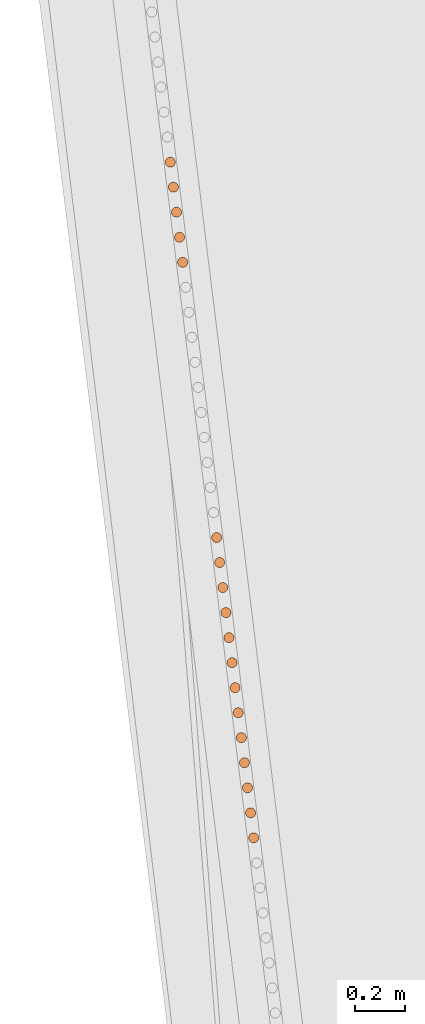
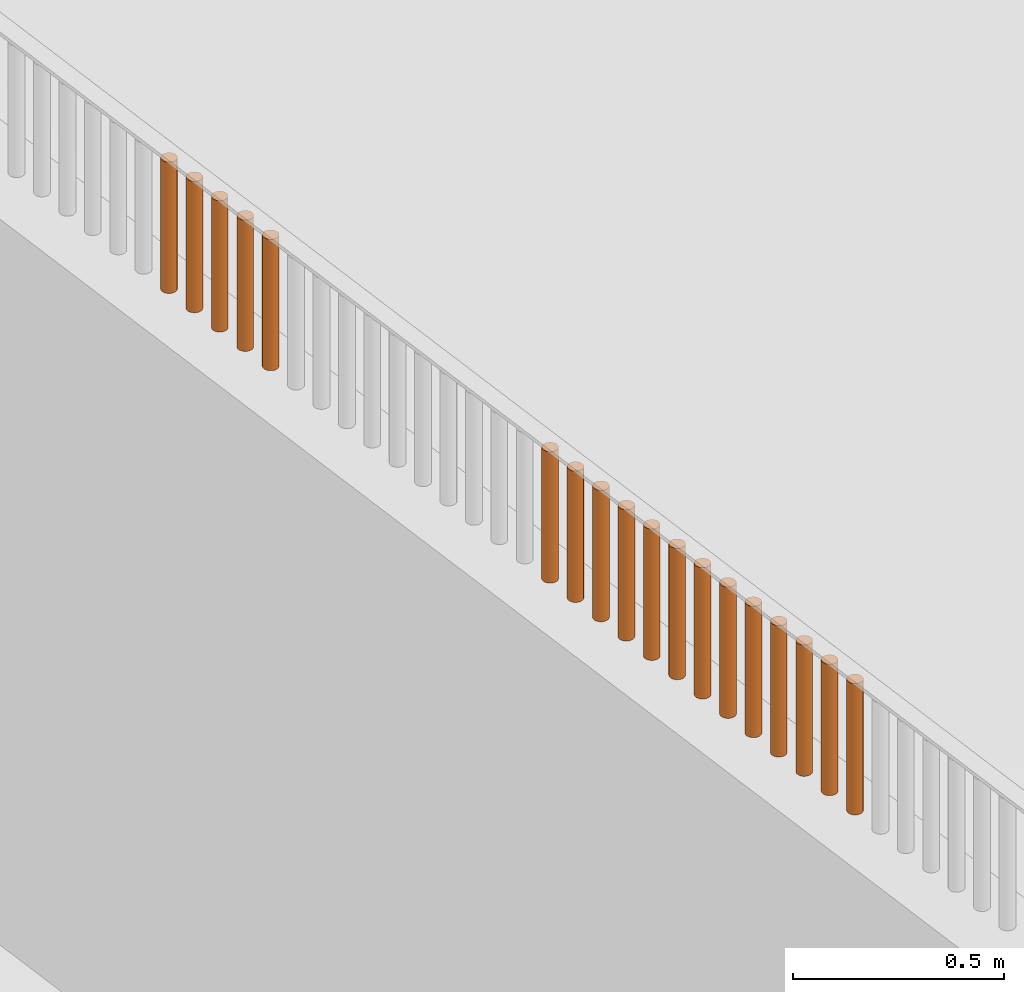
# One storey, part 60 of 1809: 18 proxies, 1 element without a shape of its own.
"""IFC2X3 building model written with IfcOpenShell, lengths in millimetres."""

from ifc_helpers import new_model, entity, si_unit, converted_unit, derived_unit, money_unit, direction, frame, origin_with_axes, place, context, subcontext, project, spatial, faceted_brep, source, transform, mapped, material, type_object, element, aggregate, save


model = new_model("IFC2X3")

# Units and contexts
model_context = context("Model", 3, precision=0.01, world=origin_with_axes(), true_north=direction((0.0, 1.0)))
body_context = subcontext(model_context, "Body", "Model", "MODEL_VIEW")
ifc_project = project(units=[si_unit("LENGTHUNIT", "METRE", prefix="MILLI"), si_unit("AREAUNIT", "SQUARE_METRE"), si_unit("VOLUMEUNIT", "CUBIC_METRE"), converted_unit("PLANEANGLEUNIT", "DEGREE", entity("IfcPlaneAngleMeasure", 0.0174532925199), si_unit("PLANEANGLEUNIT", "RADIAN"), dimensions=[0, 0, 0, 0, 0, 0, 0]), si_unit("SOLIDANGLEUNIT", "STERADIAN"), money_unit("EUR"), converted_unit("TIMEUNIT", "Year", entity("IfcTimeMeasure", 31556926.0), si_unit("TIMEUNIT", "SECOND"), dimensions=[0, 0, 1, 0, 0, 0, 0]), si_unit("MASSUNIT", "GRAM", prefix="KILO"), si_unit("THERMODYNAMICTEMPERATUREUNIT", "DEGREE_CELSIUS"), si_unit("LUMINOUSINTENSITYUNIT", "LUMEN"), si_unit("ENERGYUNIT", "JOULE", prefix="MEGA"), derived_unit("THERMALCONDUCTANCEUNIT", [(si_unit("POWERUNIT", "WATT"), 1), (si_unit("LENGTHUNIT", "METRE"), -1), (si_unit("THERMODYNAMICTEMPERATUREUNIT", "KELVIN"), -1)]), derived_unit("SPECIFICHEATCAPACITYUNIT", [(si_unit("ENERGYUNIT", "JOULE"), 1), (si_unit("MASSUNIT", "GRAM", prefix="KILO"), -1), (si_unit("THERMODYNAMICTEMPERATUREUNIT", "KELVIN"), -1)]), derived_unit("MASSDENSITYUNIT", [(si_unit("MASSUNIT", "GRAM", prefix="KILO"), 1), (si_unit("VOLUMEUNIT", "CUBIC_METRE"), -1)])], contexts=[model_context])

# Site, building, storey
site_placement = place(None, origin_with_axes())
site = spatial("IfcSite", under=ifc_project, at=site_placement, Name="Politse- ja Piirivalveameti ning Päästeameti ühishoone", CompositionType="ELEMENT")
building_placement = place(site_placement, origin_with_axes())
building = spatial("IfcBuilding", under=site, at=building_placement, Name="Politse- ja Piirivalveameti ning Päästeameti ühishoone", CompositionType="ELEMENT")
storey_placement = place(building_placement, origin_with_axes())
storey = spatial("IfcBuildingStorey", under=building, at=storey_placement, Name="Esimene korrus", CompositionType="ELEMENT", Elevation=0.0)

# Proxies
building_element_proxy_type_1 = type_object("IfcBuildingElementProxyType", Name="Railing Type", PredefinedType="NOTDEFINED")
proxy_1_placement = place(storey_placement, frame((-18956.5522504, -53688.4757966, 2100.0), z_axis=(0.0, 0.0, 1.0), x_axis=(1.0, 0.0, 0.0)))
proxy_1 = element("IfcBuildingElementProxy", 1, at=proxy_1_placement, inside=storey, type_object=building_element_proxy_type_1, Name="PIIRDEAED")
ifc_material = material(Name="ET-06_Teras - Konstruktsioon")
building_element_proxy_type_2 = type_object("IfcBuildingElementProxyType", Name="IfcBuildingElementProxy", PredefinedType="NOTDEFINED")
shared_shape_1 = source(origin_with_axes(), body_context, "Body", "Brep", [
    faceted_brep([(0.0, -20.0, 0.0), (3.47296355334, -19.6961550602, 0.0), (3.47296355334, -19.6961550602, 380.000012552), (0.0, -20.0, 380.000012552), (-3.47296355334, -19.6961550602, 0.0), (-6.84040286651, -18.7938524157, 0.0), (-10.0, -17.3205080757, 0.0), (-12.8557521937, -15.3208888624, 0.0), (-15.3208888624, -12.8557521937, 0.0), (-17.3205080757, -10.0, 0.0), (-18.7938524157, -6.84040286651, 0.0), (-19.6961550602, -3.47296355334, 0.0), (-20.0, 0.0, 0.0), (-19.6961550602, 3.47296355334, 0.0), (-18.7938524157, 6.84040286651, 0.0), (-17.3205080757, 10.0, 0.0), (-15.3208888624, 12.8557521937, 0.0), (-12.8557521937, 15.3208888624, 0.0), (-10.0, 17.3205080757, 0.0), (-6.84040286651, 18.7938524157, 0.0), (-3.47296355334, 19.6961550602, 0.0), (0.0, 20.0, 0.0), (3.47296355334, 19.6961550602, 0.0), (6.84040286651, 18.7938524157, 0.0), (10.0, 17.3205080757, 0.0), (12.8557521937, 15.3208888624, 0.0), (15.3208888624, 12.8557521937, 0.0), (17.3205080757, 10.0, 0.0), (18.7938524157, 6.84040286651, 0.0), (19.6961550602, 3.47296355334, 0.0), (20.0, 0.0, 0.0), (19.6961550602, -3.47296355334, 0.0), (18.7938524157, -6.84040286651, 0.0), (17.3205080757, -10.0, 0.0), (15.3208888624, -12.8557521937, 0.0), (12.8557521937, -15.3208888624, 0.0), (10.0, -17.3205080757, 0.0), (6.84040286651, -18.7938524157, 0.0), (6.84040286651, -18.7938524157, 380.000012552), (10.0, -17.3205080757, 380.000012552), (12.8557521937, -15.3208888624, 380.000012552), (15.3208888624, -12.8557521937, 380.000012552), (17.3205080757, -10.0, 380.000012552), (18.7938524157, -6.84040286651, 380.000012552), (19.6961550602, -3.47296355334, 380.000012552), (20.0, 0.0, 380.000012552), (19.6961550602, 3.47296355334, 380.000012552), (18.7938524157, 6.84040286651, 380.000012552), (17.3205080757, 10.0, 380.000012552), (15.3208888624, 12.8557521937, 380.000012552), (12.8557521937, 15.3208888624, 380.000012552), (10.0, 17.3205080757, 380.000012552), (6.84040286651, 18.7938524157, 380.000012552), (3.47296355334, 19.6961550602, 380.000012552), (0.0, 20.0, 380.000012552), (-3.47296355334, 19.6961550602, 380.000012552), (-6.84040286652, 18.7938524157, 380.000012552), (-10.0, 17.3205080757, 380.000012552), (-12.8557521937, 15.3208888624, 380.000012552), (-15.3208888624, 12.8557521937, 380.000012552), (-17.3205080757, 10.0, 380.000012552), (-18.7938524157, 6.84040286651, 380.000012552), (-19.6961550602, 3.47296355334, 380.000012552), (-20.0, 0.0, 380.000012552), (-19.6961550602, -3.47296355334, 380.000012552), (-18.7938524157, -6.84040286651, 380.000012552), (-17.3205080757, -10.0, 380.000012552), (-15.3208888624, -12.8557521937, 380.000012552), (-12.8557521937, -15.3208888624, 380.000012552), (-10.0, -17.3205080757, 380.000012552), (-6.84040286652, -18.7938524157, 380.000012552), (-3.47296355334, -19.6961550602, 380.000012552)], [[[0, 1, 2, 3]], [[0, 4, 5, 6, 7, 8, 9, 10, 11, 12, 13, 14, 15, 16, 17, 18, 19, 20, 21, 22, 23, 24, 25, 26, 27, 28, 29, 30, 31, 32, 33, 34, 35, 36, 37, 1]], [[1, 37, 38, 2]], [[3, 2, 38, 39, 40, 41, 42, 43, 44, 45, 46, 47, 48, 49, 50, 51, 52, 53, 54, 55, 56, 57, 58, 59, 60, 61, 62, 63, 64, 65, 66, 67, 68, 69, 70, 71]], [[4, 0, 3, 71]], [[5, 4, 71, 70]], [[6, 5, 70, 69]], [[7, 6, 69, 68]], [[8, 7, 68, 67]], [[9, 8, 67, 66]], [[10, 9, 66, 65]], [[11, 10, 65, 64]], [[12, 11, 64, 63]], [[13, 12, 63, 62]], [[14, 13, 62, 61]], [[15, 14, 61, 60]], [[16, 15, 60, 59]], [[17, 16, 59, 58]], [[18, 17, 58, 57]], [[19, 18, 57, 56]], [[20, 19, 56, 55]], [[21, 20, 55, 54]], [[22, 21, 54, 53]], [[23, 22, 53, 52]], [[24, 23, 52, 51]], [[25, 24, 51, 50]], [[26, 25, 50, 49]], [[27, 26, 49, 48]], [[28, 27, 48, 47]], [[29, 28, 47, 46]], [[30, 29, 46, 45]], [[31, 30, 45, 44]], [[32, 31, 44, 43]], [[33, 32, 43, 42]], [[34, 33, 42, 41]], [[35, 34, 41, 40]], [[36, 35, 40, 39]], [[37, 36, 39, 38]]]),
])
proxy_2_placement = place(proxy_1_placement, frame((-693.160383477, 4781.62208498, -1.25517001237e-05), z_axis=(0.0, 0.0, 1.0), x_axis=(1.0, 0.0, 0.0)))
proxy_2 = element("IfcBuildingElementProxy", 2, at=proxy_2_placement, type_object=building_element_proxy_type_2, material=ifc_material, Name="BALUSTER - 001", context=body_context, shape_type="MappedRepresentation", body=[
    mapped(shared_shape_1, transform((0.0, 0.0, 0.0), x_axis=(0.992468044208, 0.122503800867, 0.0), y_axis=(-0.122503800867, 0.992468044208, 0.0), z_axis=(0.0, 0.0, 1.0))),
])
proxy_3_placement = place(proxy_1_placement, frame((-754.398908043, 5277.74774211, -1.25517001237e-05), z_axis=(0.0, 0.0, 1.0), x_axis=(1.0, 0.0, 0.0)))
proxy_3 = element("IfcBuildingElementProxy", 3, at=proxy_3_placement, type_object=building_element_proxy_type_2, material=ifc_material, Name="BALUSTER - 001", context=body_context, shape_type="MappedRepresentation", body=[
    mapped(shared_shape_1, transform((0.0, 0.0, 0.0), x_axis=(0.992468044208, 0.122503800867, 0.0), y_axis=(-0.122503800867, 0.992468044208, 0.0), z_axis=(0.0, 0.0, 1.0))),
])
proxy_4_placement = place(proxy_1_placement, frame((-815.637432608, 5773.87339923, -1.25517001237e-05), z_axis=(0.0, 0.0, 1.0), x_axis=(1.0, 0.0, 0.0)))
proxy_4 = element("IfcBuildingElementProxy", 4, at=proxy_4_placement, type_object=building_element_proxy_type_2, material=ifc_material, Name="BALUSTER - 001", context=body_context, shape_type="MappedRepresentation", body=[
    mapped(shared_shape_1, transform((0.0, 0.0, 0.0), x_axis=(0.992468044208, 0.122503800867, 0.0), y_axis=(-0.122503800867, 0.992468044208, 0.0), z_axis=(0.0, 0.0, 1.0))),
])
shared_shape_2 = source(origin_with_axes(), body_context, "Body", "Brep", [
    faceted_brep([(0.0, -20.0, 0.0), (3.47296355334, -19.6961550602, 0.0), (3.47296355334, -19.6961550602, 380.000012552), (0.0, -20.0, 380.000012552), (-3.47296355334, -19.6961550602, 0.0), (-6.84040286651, -18.7938524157, 0.0), (-10.0, -17.3205080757, 0.0), (-12.8557521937, -15.3208888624, 0.0), (-15.3208888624, -12.8557521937, 0.0), (-17.3205080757, -10.0, 0.0), (-18.7938524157, -6.84040286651, 0.0), (-19.6961550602, -3.47296355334, 0.0), (-20.0, 0.0, 0.0), (-19.6961550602, 3.47296355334, 0.0), (-18.7938524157, 6.84040286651, 0.0), (-17.3205080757, 10.0, 0.0), (-15.3208888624, 12.8557521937, 0.0), (-12.8557521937, 15.3208888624, 0.0), (-10.0, 17.3205080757, 0.0), (-6.84040286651, 18.7938524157, 0.0), (-3.47296355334, 19.6961550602, 0.0), (0.0, 20.0, 0.0), (3.47296355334, 19.6961550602, 0.0), (6.84040286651, 18.7938524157, 0.0), (10.0, 17.3205080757, 0.0), (12.8557521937, 15.3208888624, 0.0), (15.3208888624, 12.8557521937, 0.0), (17.3205080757, 10.0, 0.0), (18.7938524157, 6.84040286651, 0.0), (19.6961550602, 3.47296355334, 0.0), (20.0, 0.0, 0.0), (19.6961550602, -3.47296355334, 0.0), (18.7938524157, -6.84040286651, 0.0), (17.3205080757, -10.0, 0.0), (15.3208888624, -12.8557521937, 0.0), (12.8557521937, -15.3208888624, 0.0), (10.0, -17.3205080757, 0.0), (6.84040286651, -18.7938524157, 0.0), (6.84040286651, -18.7938524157, 380.000012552), (10.0, -17.3205080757, 380.000012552), (12.8557521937, -15.3208888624, 380.000012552), (15.3208888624, -12.8557521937, 380.000012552), (17.3205080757, -10.0, 380.000012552), (18.7938524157, -6.84040286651, 380.000012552), (19.6961550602, -3.47296355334, 380.000012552), (20.0, 0.0, 380.000012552), (19.6961550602, 3.47296355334, 380.000012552), (18.7938524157, 6.84040286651, 380.000012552), (17.3205080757, 10.0, 380.000012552), (15.3208888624, 12.8557521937, 380.000012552), (12.8557521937, 15.3208888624, 380.000012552), (10.0, 17.3205080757, 380.000012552), (6.84040286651, 18.7938524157, 380.000012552), (3.47296355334, 19.6961550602, 380.000012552), (0.0, 20.0, 380.000012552), (-3.47296355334, 19.6961550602, 380.000012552), (-6.84040286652, 18.7938524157, 380.000012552), (-10.0, 17.3205080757, 380.000012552), (-12.8557521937, 15.3208888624, 380.000012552), (-15.3208888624, 12.8557521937, 380.000012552), (-17.3205080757, 10.0, 380.000012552), (-18.7938524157, 6.84040286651, 380.000012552), (-19.6961550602, 3.47296355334, 380.000012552), (-20.0, 0.0, 380.000012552), (-19.6961550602, -3.47296355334, 380.000012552), (-18.7938524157, -6.84040286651, 380.000012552), (-17.3205080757, -10.0, 380.000012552), (-15.3208888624, -12.8557521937, 380.000012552), (-12.8557521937, -15.3208888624, 380.000012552), (-10.0, -17.3205080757, 380.000012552), (-6.84040286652, -18.7938524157, 380.000012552), (-3.47296355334, -19.6961550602, 380.000012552)], [[[0, 1, 2, 3]], [[0, 4, 5, 6, 7, 8, 9, 10, 11, 12, 13, 14, 15, 16, 17, 18, 19, 20, 21, 22, 23, 24, 25, 26, 27, 28, 29, 30, 31, 32, 33, 34, 35, 36, 37, 1]], [[1, 37, 38, 2]], [[3, 2, 38, 39, 40, 41, 42, 43, 44, 45, 46, 47, 48, 49, 50, 51, 52, 53, 54, 55, 56, 57, 58, 59, 60, 61, 62, 63, 64, 65, 66, 67, 68, 69, 70, 71]], [[4, 0, 3, 71]], [[5, 4, 71, 70]], [[6, 5, 70, 69]], [[7, 6, 69, 68]], [[8, 7, 68, 67]], [[9, 8, 67, 66]], [[10, 9, 66, 65]], [[11, 10, 65, 64]], [[12, 11, 64, 63]], [[13, 12, 63, 62]], [[14, 13, 62, 61]], [[15, 14, 61, 60]], [[16, 15, 60, 59]], [[17, 16, 59, 58]], [[18, 17, 58, 57]], [[19, 18, 57, 56]], [[20, 19, 56, 55]], [[21, 20, 55, 54]], [[22, 21, 54, 53]], [[23, 22, 53, 52]], [[24, 23, 52, 51]], [[25, 24, 51, 50]], [[26, 25, 50, 49]], [[27, 26, 49, 48]], [[28, 27, 48, 47]], [[29, 28, 47, 46]], [[30, 29, 46, 45]], [[31, 30, 45, 44]], [[32, 31, 44, 43]], [[33, 32, 43, 42]], [[34, 33, 42, 41]], [[35, 34, 41, 40]], [[36, 35, 40, 39]], [[37, 36, 39, 38]]]),
])
proxy_5_placement = place(proxy_1_placement, frame((-680.912678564, 4682.39695356, -1.25517001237e-05), z_axis=(0.0, 0.0, 1.0), x_axis=(1.0, 0.0, 0.0)))
proxy_5 = element("IfcBuildingElementProxy", 5, at=proxy_5_placement, type_object=building_element_proxy_type_2, material=ifc_material, Name="BALUSTER - 001", context=body_context, shape_type="MappedRepresentation", body=[
    mapped(shared_shape_2, transform((0.0, 0.0, 0.0), x_axis=(0.992468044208, 0.122503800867, 0.0), y_axis=(-0.122503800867, 0.992468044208, 0.0), z_axis=(0.0, 0.0, 1.0))),
])
proxy_6_placement = place(proxy_1_placement, frame((-729.903498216, 5079.29747926, -1.25517001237e-05), z_axis=(0.0, 0.0, 1.0), x_axis=(1.0, 0.0, 0.0)))
proxy_6 = element("IfcBuildingElementProxy", 6, at=proxy_6_placement, type_object=building_element_proxy_type_2, material=ifc_material, Name="BALUSTER - 001", context=body_context, shape_type="MappedRepresentation", body=[
    mapped(shared_shape_2, transform((0.0, 0.0, 0.0), x_axis=(0.992468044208, 0.122503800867, 0.0), y_axis=(-0.122503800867, 0.992468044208, 0.0), z_axis=(0.0, 0.0, 1.0))),
])
proxy_7_placement = place(proxy_1_placement, frame((-742.151203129, 5178.52261068, -1.25517001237e-05), z_axis=(0.0, 0.0, 1.0), x_axis=(1.0, 0.0, 0.0)))
proxy_7 = element("IfcBuildingElementProxy", 7, at=proxy_7_placement, type_object=building_element_proxy_type_2, material=ifc_material, Name="BALUSTER - 001", context=body_context, shape_type="MappedRepresentation", body=[
    mapped(shared_shape_2, transform((0.0, 0.0, 0.0), x_axis=(0.992468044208, 0.122503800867, 0.0), y_axis=(-0.122503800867, 0.992468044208, 0.0), z_axis=(0.0, 0.0, 1.0))),
])
proxy_8_placement = place(proxy_1_placement, frame((-766.646612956, 5376.97287353, -1.25517001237e-05), z_axis=(0.0, 0.0, 1.0), x_axis=(1.0, 0.0, 0.0)))
proxy_8 = element("IfcBuildingElementProxy", 8, at=proxy_8_placement, type_object=building_element_proxy_type_2, material=ifc_material, Name="BALUSTER - 001", context=body_context, shape_type="MappedRepresentation", body=[
    mapped(shared_shape_2, transform((0.0, 0.0, 0.0), x_axis=(0.992468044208, 0.122503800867, 0.0), y_axis=(-0.122503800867, 0.992468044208, 0.0), z_axis=(0.0, 0.0, 1.0))),
])
proxy_9_placement = place(proxy_1_placement, frame((-791.142022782, 5575.42313638, -1.25517001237e-05), z_axis=(0.0, 0.0, 1.0), x_axis=(1.0, 0.0, 0.0)))
proxy_9 = element("IfcBuildingElementProxy", 9, at=proxy_9_placement, type_object=building_element_proxy_type_2, material=ifc_material, Name="BALUSTER - 001", context=body_context, shape_type="MappedRepresentation", body=[
    mapped(shared_shape_2, transform((0.0, 0.0, 0.0), x_axis=(0.992468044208, 0.122503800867, 0.0), y_axis=(-0.122503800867, 0.992468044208, 0.0), z_axis=(0.0, 0.0, 1.0))),
])
proxy_10_placement = place(proxy_1_placement, frame((-827.885137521, 5873.09853066, -1.25517001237e-05), z_axis=(0.0, 0.0, 1.0), x_axis=(1.0, 0.0, 0.0)))
proxy_10 = element("IfcBuildingElementProxy", 10, at=proxy_10_placement, type_object=building_element_proxy_type_2, material=ifc_material, Name="BALUSTER - 001", context=body_context, shape_type="MappedRepresentation", body=[
    mapped(shared_shape_2, transform((0.0, 0.0, 0.0), x_axis=(0.992468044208, 0.122503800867, 0.0), y_axis=(-0.122503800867, 0.992468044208, 0.0), z_axis=(0.0, 0.0, 1.0))),
])
proxy_11_placement = place(proxy_1_placement, frame((-962.609891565, 6964.57497634, -1.25517001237e-05), z_axis=(0.0, 0.0, 1.0), x_axis=(1.0, 0.0, 0.0)))
proxy_11 = element("IfcBuildingElementProxy", 11, at=proxy_11_placement, type_object=building_element_proxy_type_2, material=ifc_material, Name="BALUSTER - 001", context=body_context, shape_type="MappedRepresentation", body=[
    mapped(shared_shape_2, transform((0.0, 0.0, 0.0), x_axis=(0.992468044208, 0.122503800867, 0.0), y_axis=(-0.122503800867, 0.992468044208, 0.0), z_axis=(0.0, 0.0, 1.0))),
])
proxy_12_placement = place(proxy_1_placement, frame((-999.353006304, 7262.25037061, -1.25517001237e-05), z_axis=(0.0, 0.0, 1.0), x_axis=(1.0, 0.0, 0.0)))
proxy_12 = element("IfcBuildingElementProxy", 12, at=proxy_12_placement, type_object=building_element_proxy_type_2, material=ifc_material, Name="BALUSTER - 001", context=body_context, shape_type="MappedRepresentation", body=[
    mapped(shared_shape_2, transform((0.0, 0.0, 0.0), x_axis=(0.992468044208, 0.122503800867, 0.0), y_axis=(-0.122503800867, 0.992468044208, 0.0), z_axis=(0.0, 0.0, 1.0))),
])
proxy_13_placement = place(proxy_1_placement, frame((-1011.60071122, 7361.47550204, -1.25517001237e-05), z_axis=(0.0, 0.0, 1.0), x_axis=(1.0, 0.0, 0.0)))
proxy_13 = element("IfcBuildingElementProxy", 13, at=proxy_13_placement, type_object=building_element_proxy_type_2, material=ifc_material, Name="BALUSTER - 001", context=body_context, shape_type="MappedRepresentation", body=[
    mapped(shared_shape_2, transform((0.0, 0.0, 0.0), x_axis=(0.992468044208, 0.122503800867, 0.0), y_axis=(-0.122503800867, 0.992468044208, 0.0), z_axis=(0.0, 0.0, 1.0))),
])
shared_shape_3 = source(origin_with_axes(), body_context, "Body", "Brep", [
    faceted_brep([(0.0, -20.0, 0.0), (3.47296355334, -19.6961550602, 0.0), (3.47296355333, -19.6961550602, 380.000012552), (0.0, -20.0, 380.000012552), (-3.47296355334, -19.6961550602, 0.0), (-6.84040286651, -18.7938524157, 0.0), (-10.0, -17.3205080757, 0.0), (-12.8557521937, -15.3208888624, 0.0), (-15.3208888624, -12.8557521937, 0.0), (-17.3205080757, -10.0, 0.0), (-18.7938524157, -6.84040286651, 0.0), (-19.6961550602, -3.47296355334, 0.0), (-20.0, 0.0, 0.0), (-19.6961550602, 3.47296355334, 0.0), (-18.7938524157, 6.84040286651, 0.0), (-17.3205080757, 10.0, 0.0), (-15.3208888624, 12.8557521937, 0.0), (-12.8557521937, 15.3208888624, 0.0), (-10.0, 17.3205080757, 0.0), (-6.84040286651, 18.7938524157, 0.0), (-3.47296355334, 19.6961550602, 0.0), (0.0, 20.0, 0.0), (3.47296355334, 19.6961550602, 0.0), (6.84040286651, 18.7938524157, 0.0), (10.0, 17.3205080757, 0.0), (12.8557521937, 15.3208888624, 0.0), (15.3208888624, 12.8557521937, 0.0), (17.3205080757, 10.0, 0.0), (18.7938524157, 6.84040286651, 0.0), (19.6961550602, 3.47296355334, 0.0), (20.0, 0.0, 0.0), (19.6961550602, -3.47296355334, 0.0), (18.7938524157, -6.84040286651, 0.0), (17.3205080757, -10.0, 0.0), (15.3208888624, -12.8557521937, 0.0), (12.8557521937, -15.3208888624, 0.0), (10.0, -17.3205080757, 0.0), (6.84040286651, -18.7938524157, 0.0), (6.84040286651, -18.7938524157, 380.000012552), (9.99999999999, -17.3205080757, 380.000012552), (12.8557521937, -15.3208888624, 380.000012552), (15.3208888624, -12.8557521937, 380.000012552), (17.3205080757, -10.0, 380.000012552), (18.7938524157, -6.84040286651, 380.000012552), (19.6961550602, -3.47296355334, 380.000012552), (20.0, 0.0, 380.000012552), (19.6961550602, 3.47296355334, 380.000012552), (18.7938524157, 6.84040286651, 380.000012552), (17.3205080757, 10.0, 380.000012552), (15.3208888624, 12.8557521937, 380.000012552), (12.8557521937, 15.3208888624, 380.000012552), (9.99999999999, 17.3205080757, 380.000012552), (6.84040286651, 18.7938524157, 380.000012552), (3.47296355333, 19.6961550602, 380.000012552), (0.0, 20.0, 380.000012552), (-3.47296355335, 19.6961550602, 380.000012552), (-6.84040286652, 18.7938524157, 380.000012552), (-10.0, 17.3205080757, 380.000012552), (-12.8557521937, 15.3208888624, 380.000012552), (-15.3208888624, 12.8557521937, 380.000012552), (-17.3205080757, 10.0, 380.000012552), (-18.7938524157, 6.84040286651, 380.000012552), (-19.6961550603, 3.47296355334, 380.000012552), (-20.0, 0.0, 380.000012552), (-19.6961550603, -3.47296355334, 380.000012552), (-18.7938524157, -6.84040286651, 380.000012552), (-17.3205080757, -10.0, 380.000012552), (-15.3208888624, -12.8557521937, 380.000012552), (-12.8557521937, -15.3208888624, 380.000012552), (-10.0, -17.3205080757, 380.000012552), (-6.84040286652, -18.7938524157, 380.000012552), (-3.47296355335, -19.6961550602, 380.000012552)], [[[0, 1, 2, 3]], [[0, 4, 5, 6, 7, 8, 9, 10, 11, 12, 13, 14, 15, 16, 17, 18, 19, 20, 21, 22, 23, 24, 25, 26, 27, 28, 29, 30, 31, 32, 33, 34, 35, 36, 37, 1]], [[1, 37, 38, 2]], [[3, 2, 38, 39, 40, 41, 42, 43, 44, 45, 46, 47, 48, 49, 50, 51, 52, 53, 54, 55, 56, 57, 58, 59, 60, 61, 62, 63, 64, 65, 66, 67, 68, 69, 70, 71]], [[4, 0, 3, 71]], [[5, 4, 71, 70]], [[6, 5, 70, 69]], [[7, 6, 69, 68]], [[8, 7, 68, 67]], [[9, 8, 67, 66]], [[10, 9, 66, 65]], [[11, 10, 65, 64]], [[12, 11, 64, 63]], [[13, 12, 63, 62]], [[14, 13, 62, 61]], [[15, 14, 61, 60]], [[16, 15, 60, 59]], [[17, 16, 59, 58]], [[18, 17, 58, 57]], [[19, 18, 57, 56]], [[20, 19, 56, 55]], [[21, 20, 55, 54]], [[22, 21, 54, 53]], [[23, 22, 53, 52]], [[24, 23, 52, 51]], [[25, 24, 51, 50]], [[26, 25, 50, 49]], [[27, 26, 49, 48]], [[28, 27, 48, 47]], [[29, 28, 47, 46]], [[30, 29, 46, 45]], [[31, 30, 45, 44]], [[32, 31, 44, 43]], [[33, 32, 43, 42]], [[34, 33, 42, 41]], [[35, 34, 41, 40]], [[36, 35, 40, 39]], [[37, 36, 39, 38]]]),
])
proxy_14_placement = place(proxy_1_placement, frame((-705.40808839, 4880.84721641, -1.25517001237e-05), z_axis=(0.0, 0.0, 1.0), x_axis=(1.0, 0.0, 0.0)))
proxy_14 = element("IfcBuildingElementProxy", 14, at=proxy_14_placement, type_object=building_element_proxy_type_2, material=ifc_material, Name="BALUSTER - 001", context=body_context, shape_type="MappedRepresentation", body=[
    mapped(shared_shape_3, transform((0.0, 0.0, 0.0), x_axis=(0.992468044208, 0.122503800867, 0.0), y_axis=(-0.122503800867, 0.992468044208, 0.0), z_axis=(0.0, 0.0, 1.0))),
])
proxy_15_placement = place(proxy_1_placement, frame((-717.655793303, 4980.07234783, -1.25517001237e-05), z_axis=(0.0, 0.0, 1.0), x_axis=(1.0, 0.0, 0.0)))
proxy_15 = element("IfcBuildingElementProxy", 15, at=proxy_15_placement, type_object=building_element_proxy_type_2, material=ifc_material, Name="BALUSTER - 001", context=body_context, shape_type="MappedRepresentation", body=[
    mapped(shared_shape_3, transform((0.0, 0.0, 0.0), x_axis=(0.992468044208, 0.122503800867, 0.0), y_axis=(-0.122503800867, 0.992468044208, 0.0), z_axis=(0.0, 0.0, 1.0))),
])
proxy_16_placement = place(proxy_1_placement, frame((-974.857596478, 7063.80010776, -1.25517001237e-05), z_axis=(0.0, 0.0, 1.0), x_axis=(1.0, 0.0, 0.0)))
proxy_16 = element("IfcBuildingElementProxy", 16, at=proxy_16_placement, type_object=building_element_proxy_type_2, material=ifc_material, Name="BALUSTER - 001", context=body_context, shape_type="MappedRepresentation", body=[
    mapped(shared_shape_3, transform((0.0, 0.0, 0.0), x_axis=(0.992468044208, 0.122503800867, 0.0), y_axis=(-0.122503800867, 0.992468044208, 0.0), z_axis=(0.0, 0.0, 1.0))),
])
proxy_17_placement = place(proxy_1_placement, frame((-987.105301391, 7163.02523919, -1.25517001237e-05), z_axis=(0.0, 0.0, 1.0), x_axis=(1.0, 0.0, 0.0)))
proxy_17 = element("IfcBuildingElementProxy", 17, at=proxy_17_placement, type_object=building_element_proxy_type_2, material=ifc_material, Name="BALUSTER - 001", context=body_context, shape_type="MappedRepresentation", body=[
    mapped(shared_shape_3, transform((0.0, 0.0, 0.0), x_axis=(0.992468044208, 0.122503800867, 0.0), y_axis=(-0.122503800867, 0.992468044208, 0.0), z_axis=(0.0, 0.0, 1.0))),
])
shared_shape_4 = source(origin_with_axes(), body_context, "Body", "Brep", [
    faceted_brep([(0.0, -20.0, 0.0), (3.47296355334, -19.6961550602, 0.0), (3.47296355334, -19.6961550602, 380.000012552), (0.0, -20.0, 380.000012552), (-3.47296355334, -19.6961550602, 0.0), (-6.84040286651, -18.7938524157, 0.0), (-10.0, -17.3205080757, 0.0), (-12.8557521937, -15.3208888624, 0.0), (-15.3208888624, -12.8557521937, 0.0), (-17.3205080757, -10.0, 0.0), (-18.7938524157, -6.84040286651, 0.0), (-19.6961550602, -3.47296355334, 0.0), (-20.0, 0.0, 0.0), (-19.6961550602, 3.47296355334, 0.0), (-18.7938524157, 6.84040286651, 0.0), (-17.3205080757, 10.0, 0.0), (-15.3208888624, 12.8557521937, 0.0), (-12.8557521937, 15.3208888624, 0.0), (-10.0, 17.3205080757, 0.0), (-6.84040286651, 18.7938524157, 0.0), (-3.47296355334, 19.6961550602, 0.0), (0.0, 20.0, 0.0), (3.47296355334, 19.6961550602, 0.0), (6.84040286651, 18.7938524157, 0.0), (10.0, 17.3205080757, 0.0), (12.8557521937, 15.3208888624, 0.0), (15.3208888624, 12.8557521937, 0.0), (17.3205080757, 10.0, 0.0), (18.7938524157, 6.84040286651, 0.0), (19.6961550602, 3.47296355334, 0.0), (20.0, 0.0, 0.0), (19.6961550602, -3.47296355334, 0.0), (18.7938524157, -6.84040286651, 0.0), (17.3205080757, -10.0, 0.0), (15.3208888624, -12.8557521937, 0.0), (12.8557521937, -15.3208888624, 0.0), (10.0, -17.3205080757, 0.0), (6.84040286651, -18.7938524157, 0.0), (6.84040286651, -18.7938524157, 380.000012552), (10.0, -17.3205080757, 380.000012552), (12.8557521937, -15.3208888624, 380.000012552), (15.3208888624, -12.8557521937, 380.000012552), (17.3205080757, -10.0, 380.000012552), (18.7938524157, -6.84040286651, 380.000012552), (19.6961550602, -3.47296355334, 380.000012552), (20.0, 0.0, 380.000012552), (19.6961550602, 3.47296355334, 380.000012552), (18.7938524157, 6.84040286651, 380.000012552), (17.3205080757, 10.0, 380.000012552), (15.3208888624, 12.8557521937, 380.000012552), (12.8557521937, 15.3208888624, 380.000012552), (10.0, 17.3205080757, 380.000012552), (6.84040286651, 18.7938524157, 380.000012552), (3.47296355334, 19.6961550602, 380.000012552), (0.0, 20.0, 380.000012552), (-3.47296355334, 19.6961550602, 380.000012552), (-6.84040286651, 18.7938524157, 380.000012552), (-10.0, 17.3205080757, 380.000012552), (-12.8557521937, 15.3208888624, 380.000012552), (-15.3208888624, 12.8557521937, 380.000012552), (-17.3205080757, 10.0, 380.000012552), (-18.7938524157, 6.84040286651, 380.000012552), (-19.6961550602, 3.47296355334, 380.000012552), (-20.0, 0.0, 380.000012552), (-19.6961550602, -3.47296355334, 380.000012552), (-18.7938524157, -6.84040286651, 380.000012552), (-17.3205080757, -10.0, 380.000012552), (-15.3208888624, -12.8557521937, 380.000012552), (-12.8557521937, -15.3208888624, 380.000012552), (-10.0, -17.3205080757, 380.000012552), (-6.84040286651, -18.7938524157, 380.000012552), (-3.47296355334, -19.6961550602, 380.000012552)], [[[0, 1, 2, 3]], [[0, 4, 5, 6, 7, 8, 9, 10, 11, 12, 13, 14, 15, 16, 17, 18, 19, 20, 21, 22, 23, 24, 25, 26, 27, 28, 29, 30, 31, 32, 33, 34, 35, 36, 37, 1]], [[1, 37, 38, 2]], [[3, 2, 38, 39, 40, 41, 42, 43, 44, 45, 46, 47, 48, 49, 50, 51, 52, 53, 54, 55, 56, 57, 58, 59, 60, 61, 62, 63, 64, 65, 66, 67, 68, 69, 70, 71]], [[4, 0, 3, 71]], [[5, 4, 71, 70]], [[6, 5, 70, 69]], [[7, 6, 69, 68]], [[8, 7, 68, 67]], [[9, 8, 67, 66]], [[10, 9, 66, 65]], [[11, 10, 65, 64]], [[12, 11, 64, 63]], [[13, 12, 63, 62]], [[14, 13, 62, 61]], [[15, 14, 61, 60]], [[16, 15, 60, 59]], [[17, 16, 59, 58]], [[18, 17, 58, 57]], [[19, 18, 57, 56]], [[20, 19, 56, 55]], [[21, 20, 55, 54]], [[22, 21, 54, 53]], [[23, 22, 53, 52]], [[24, 23, 52, 51]], [[25, 24, 51, 50]], [[26, 25, 50, 49]], [[27, 26, 49, 48]], [[28, 27, 48, 47]], [[29, 28, 47, 46]], [[30, 29, 46, 45]], [[31, 30, 45, 44]], [[32, 31, 44, 43]], [[33, 32, 43, 42]], [[34, 33, 42, 41]], [[35, 34, 41, 40]], [[36, 35, 40, 39]], [[37, 36, 39, 38]]]),
])
proxy_18_placement = place(proxy_1_placement, frame((-778.894317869, 5476.19800496, -1.25517001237e-05), z_axis=(0.0, 0.0, 1.0), x_axis=(1.0, 0.0, 0.0)))
proxy_18 = element("IfcBuildingElementProxy", 18, at=proxy_18_placement, type_object=building_element_proxy_type_2, material=ifc_material, Name="BALUSTER - 001", context=body_context, shape_type="MappedRepresentation", body=[
    mapped(shared_shape_4, transform((0.0, 0.0, 0.0), x_axis=(0.992468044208, 0.122503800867, 0.0), y_axis=(-0.122503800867, 0.992468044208, 0.0), z_axis=(0.0, 0.0, 1.0))),
])
shared_shape_5 = source(origin_with_axes(), body_context, "Body", "Brep", [
    faceted_brep([(0.0, -20.0, 0.0), (3.47296355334, -19.6961550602, 0.0), (3.47296355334, -19.6961550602, 380.000012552), (0.0, -20.0, 380.000012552), (-3.47296355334, -19.6961550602, 0.0), (-6.84040286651, -18.7938524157, 0.0), (-10.0, -17.3205080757, 0.0), (-12.8557521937, -15.3208888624, 0.0), (-15.3208888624, -12.8557521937, 0.0), (-17.3205080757, -10.0, 0.0), (-18.7938524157, -6.84040286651, 0.0), (-19.6961550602, -3.47296355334, 0.0), (-20.0, 0.0, 0.0), (-19.6961550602, 3.47296355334, 0.0), (-18.7938524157, 6.84040286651, 0.0), (-17.3205080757, 10.0, 0.0), (-15.3208888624, 12.8557521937, 0.0), (-12.8557521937, 15.3208888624, 0.0), (-10.0, 17.3205080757, 0.0), (-6.84040286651, 18.7938524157, 0.0), (-3.47296355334, 19.6961550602, 0.0), (0.0, 20.0, 0.0), (3.47296355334, 19.6961550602, 0.0), (6.84040286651, 18.7938524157, 0.0), (10.0, 17.3205080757, 0.0), (12.8557521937, 15.3208888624, 0.0), (15.3208888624, 12.8557521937, 0.0), (17.3205080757, 10.0, 0.0), (18.7938524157, 6.84040286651, 0.0), (19.6961550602, 3.47296355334, 0.0), (20.0, 0.0, 0.0), (19.6961550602, -3.47296355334, 0.0), (18.7938524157, -6.84040286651, 0.0), (17.3205080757, -10.0, 0.0), (15.3208888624, -12.8557521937, 0.0), (12.8557521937, -15.3208888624, 0.0), (10.0, -17.3205080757, 0.0), (6.84040286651, -18.7938524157, 0.0), (6.84040286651, -18.7938524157, 380.000012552), (10.0, -17.3205080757, 380.000012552), (12.8557521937, -15.3208888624, 380.000012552), (15.3208888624, -12.8557521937, 380.000012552), (17.3205080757, -10.0, 380.000012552), (18.7938524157, -6.84040286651, 380.000012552), (19.6961550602, -3.47296355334, 380.000012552), (20.0, 0.0, 380.000012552), (19.6961550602, 3.47296355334, 380.000012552), (18.7938524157, 6.84040286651, 380.000012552), (17.3205080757, 10.0, 380.000012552), (15.3208888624, 12.8557521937, 380.000012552), (12.8557521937, 15.3208888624, 380.000012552), (10.0, 17.3205080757, 380.000012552), (6.84040286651, 18.7938524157, 380.000012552), (3.47296355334, 19.6961550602, 380.000012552), (0.0, 20.0, 380.000012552), (-3.47296355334, 19.6961550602, 380.000012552), (-6.84040286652, 18.7938524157, 380.000012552), (-10.0, 17.3205080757, 380.000012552), (-12.8557521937, 15.3208888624, 380.000012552), (-15.3208888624, 12.8557521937, 380.000012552), (-17.3205080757, 10.0, 380.000012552), (-18.7938524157, 6.84040286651, 380.000012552), (-19.6961550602, 3.47296355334, 380.000012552), (-20.0, 0.0, 380.000012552), (-19.6961550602, -3.47296355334, 380.000012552), (-18.7938524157, -6.84040286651, 380.000012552), (-17.3205080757, -10.0, 380.000012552), (-15.3208888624, -12.8557521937, 380.000012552), (-12.8557521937, -15.3208888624, 380.000012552), (-10.0, -17.3205080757, 380.000012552), (-6.84040286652, -18.7938524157, 380.000012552), (-3.47296355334, -19.6961550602, 380.000012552)], [[[0, 1, 2, 3]], [[0, 4, 5, 6, 7, 8, 9, 10, 11, 12, 13, 14, 15, 16, 17, 18, 19, 20, 21, 22, 23, 24, 25, 26, 27, 28, 29, 30, 31, 32, 33, 34, 35, 36, 37, 1]], [[1, 37, 38, 2]], [[3, 2, 38, 39, 40, 41, 42, 43, 44, 45, 46, 47, 48, 49, 50, 51, 52, 53, 54, 55, 56, 57, 58, 59, 60, 61, 62, 63, 64, 65, 66, 67, 68, 69, 70, 71]], [[4, 0, 3, 71]], [[5, 4, 71, 70]], [[6, 5, 70, 69]], [[7, 6, 69, 68]], [[8, 7, 68, 67]], [[9, 8, 67, 66]], [[10, 9, 66, 65]], [[11, 10, 65, 64]], [[12, 11, 64, 63]], [[13, 12, 63, 62]], [[14, 13, 62, 61]], [[15, 14, 61, 60]], [[16, 15, 60, 59]], [[17, 16, 59, 58]], [[18, 17, 58, 57]], [[19, 18, 57, 56]], [[20, 19, 56, 55]], [[21, 20, 55, 54]], [[22, 21, 54, 53]], [[23, 22, 53, 52]], [[24, 23, 52, 51]], [[25, 24, 51, 50]], [[26, 25, 50, 49]], [[27, 26, 49, 48]], [[28, 27, 48, 47]], [[29, 28, 47, 46]], [[30, 29, 46, 45]], [[31, 30, 45, 44]], [[32, 31, 44, 43]], [[33, 32, 43, 42]], [[34, 33, 42, 41]], [[35, 34, 41, 40]], [[36, 35, 40, 39]], [[37, 36, 39, 38]]]),
])
proxy_19_placement = place(proxy_1_placement, frame((-803.389727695, 5674.64826781, -1.25517001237e-05), z_axis=(0.0, 0.0, 1.0), x_axis=(1.0, 0.0, 0.0)))
proxy_19 = element("IfcBuildingElementProxy", 19, at=proxy_19_placement, type_object=building_element_proxy_type_2, material=ifc_material, Name="BALUSTER - 001", context=body_context, shape_type="MappedRepresentation", body=[
    mapped(shared_shape_5, transform((0.0, 0.0, 0.0), x_axis=(0.992468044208, 0.122503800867, 0.0), y_axis=(-0.122503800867, 0.992468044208, 0.0), z_axis=(0.0, 0.0, 1.0))),
])
aggregate(proxy_1, [proxy_5, proxy_2, proxy_14, proxy_15, proxy_6, proxy_7, proxy_3, proxy_8, proxy_18, proxy_9, proxy_19, proxy_4, proxy_10, proxy_11, proxy_16, proxy_17, proxy_12, proxy_13])

save(model, "model.ifc")
